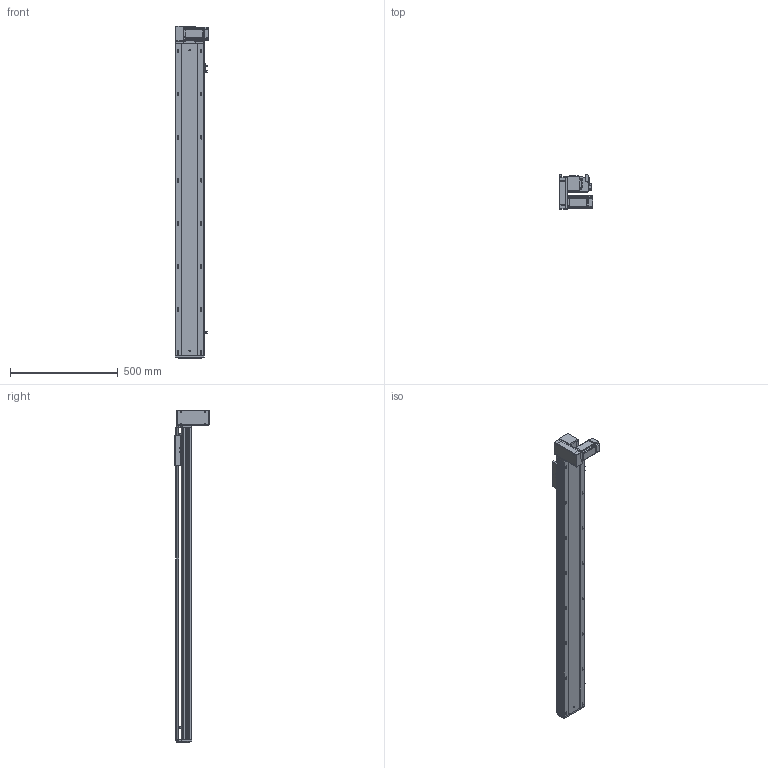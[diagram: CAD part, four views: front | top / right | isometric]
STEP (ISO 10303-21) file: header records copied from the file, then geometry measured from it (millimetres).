
FILE_DESCRIPTION (( 'STEP AP203' ), '1' );
FILE_NAME ('RY140-T-300-DL.SLDASM_1200.step', '2021-03-01T06:06:42', ( '盈信电脑' ), ( '东莞市道滘镇水果街19号' ), 'SwSTEP 2.0', 'SolidWorks 2012', '' );
FILE_SCHEMA (( 'CONFIG_CONTROL_DESIGN' ));
Length unit declared in the file: millimetre
Products named in the file (18): RY140-T-300-DL.SLDASM_1200; RY140-T翋肮謫裔啣; 滅袉蝶18-10; 侂狟400W侜督萇儂; RY140-T萇儂欶; RY120-T蹟翐M4; RY120-T主同步轮轴承压盖; RY140-T翋肮祭謫盓傅釱; 15; RY140-T萇儂假蚾啣; RY120-T肮祭湍揤踡輸1; RY120-T肮祭湍揤踡輸2; 覜茼ん672; RY120外置感应片(140共用）; RY140肮祭謫臏賑輸; RY140綴裔啣; RY140-T-300-DL倰第奻裔啣_1200; RY140-T-300-DL倰第菁釱_1200
Assembly tree (23 placements, depth 3):
  RY140-T-300-DL.SLDASM_1200
    RY140-T-300-DL倰第菁釱_1200
    RY140肮祭謫臏賑輸
    RY140-T-300-DL倰第奻裔啣_1200
    RY140綴裔啣
    覜茼ん672  x3
    RY120外置感应片(140共用）
    RY120-T肮祭湍揤踡輸2
    RY120-T肮祭湍揤踡輸1
    RY140-T翋肮祭謫盓傅釱
    RY140-T萇儂假蚾啣
    侂狟400W侜督萇儂
      15
    RY120-T主同步轮轴承压盖
    RY120-T蹟翐M4  x4
    RY140-T萇儂欶
    滅袉蝶18-10  x2
    RY140-T翋肮謫裔啣
Bounding box: 157 x 158.5 x 1543 mm (x, y, z)
Volume: 4469022.1 mm3; surface area: 1718010.5 mm2
Topology: 22 solids, 22 shells, 2726 faces, 7462 edges, 4778 vertices
Faces by surface type: plane 1389, cylinder 1003, cone 234, bspline 100
Entity records: 86140 total; most frequent: CARTESIAN_POINT 20941, ORIENTED_EDGE 13380, DIRECTION 12760, EDGE_CURVE 6690, VERTEX_POINT 4377, LINE 4262, VECTOR 4262, AXIS2_PLACEMENT_3D 4249
